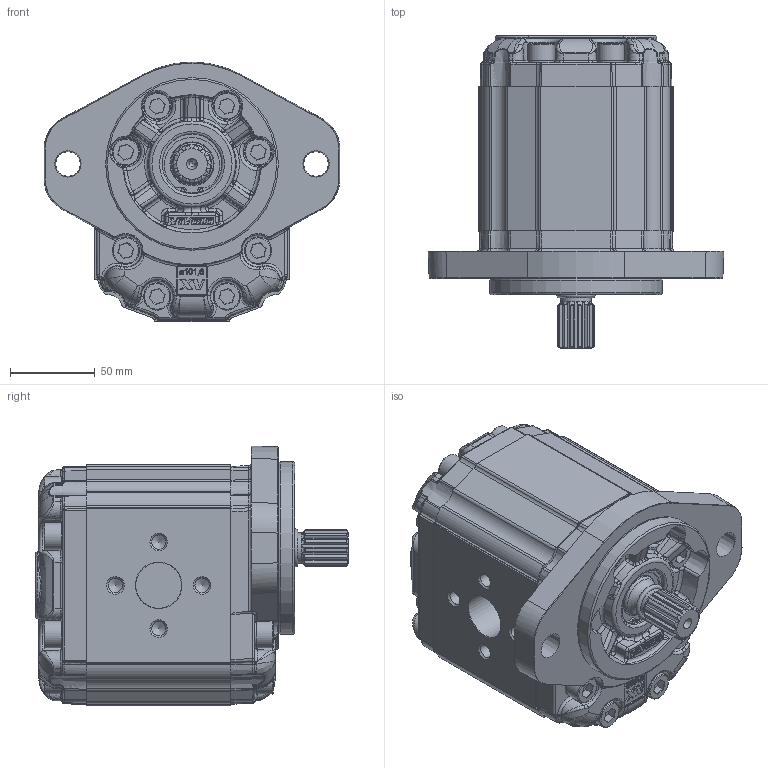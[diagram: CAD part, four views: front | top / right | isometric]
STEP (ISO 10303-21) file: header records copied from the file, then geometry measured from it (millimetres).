
FILE_DESCRIPTION(/* description */ ('Unknown'),/* implementation_level */ '2;1');
FILE_NAME(/* name */ 'X3U7831IBBA',/* time_stamp */ '2021-04-26T09:48:11+02:00',/* author */ ('Unknown'),/* organization */ ('Unknown'),/* preprocessor_version */ 'ST-DEVELOPER v16.7',/* originating_system */ 'Solid Edge',/* authorisation */ 'Unknown');
FILE_SCHEMA (('AUTOMOTIVE_DESIGN {1 0 10303 214 3 1 1}'));
Products named in the file (5): X3U7831IBBA; X3U31; 3I; X3BBH85; XU331-A
Assembly tree (4 placements, depth 2):
  X3U7831IBBA
    X3U31
    3I
    X3BBH85
    XU331-A
Bounding box: 174 x 184.2 x 153 mm (x, y, z)
Volume: 2052550.5 mm3; surface area: 206301.6 mm2
Topology: 4 solids, 21 shells, 3065 faces, 7898 edges, 4997 vertices
Faces by surface type: bspline 1317, plane 873, cylinder 654, cone 106, torus 99, sphere 16
Full cylindrical faces by diameter (mm): 2 x2, 8.376 x8, 10 x16, 15.8 x16, 16 x16, 18 x2, 24.98 x1, 25.5 x1, 26.8 x1, 27 x2, 29.425 x1, 31.42 x1, 33.304 x1, 34.7 x1, 35 x2, 35.2 x1, 37 x1, 101.6 x1
Entity records: 162889 total; most frequent: CARTESIAN_POINT 82483, ORIENTED_EDGE 15328, EDGE_CURVE 7664, DIRECTION 6742, B_SPLINE_CURVE_WITH_KNOTS 4985, VERTEX_POINT 4931, FACE_BOUND 3367, EDGE_LOOP 3358
